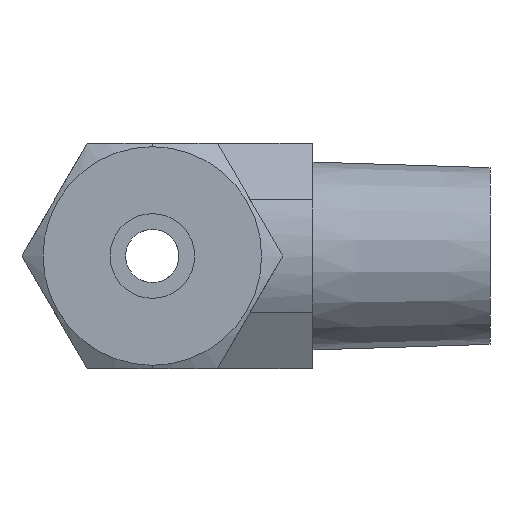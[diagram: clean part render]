
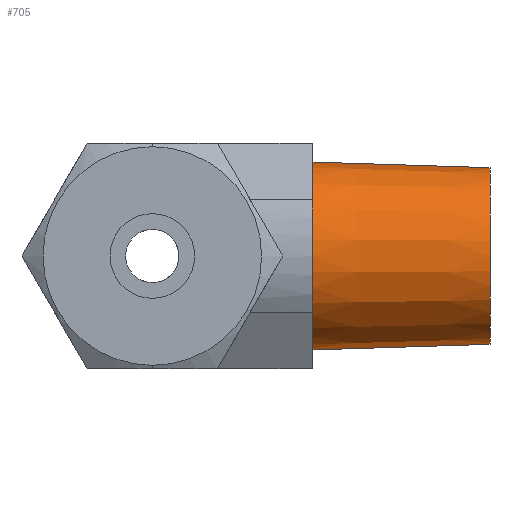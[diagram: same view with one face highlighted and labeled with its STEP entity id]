
A CAD part, left-side view. The second image highlights one B-rep face of the part: STEP entity #705.
In plain terms, the highlighted conical face has half-angle 1.8 degrees and reference radius 5.1 mm.
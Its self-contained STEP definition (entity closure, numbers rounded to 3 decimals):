
#699 = EDGE_CURVE ( 'NONE', #707, #712, #2178, .T. ) ;
#701 = ORIENTED_EDGE ( 'NONE', *, *, #699, .F. ) ;
#702 = EDGE_CURVE ( 'NONE', #706, #704, #2174, .T. ) ;
#703 = ORIENTED_EDGE ( 'NONE', *, *, #713, .T. ) ;
#704 = VERTEX_POINT ( 'NONE', #2170 ) ;
#705 = ADVANCED_FACE ( 'NONE', ( #2169 ), #2168, .T. ) ;
#706 = VERTEX_POINT ( 'NONE', #2167 ) ;
#707 = VERTEX_POINT ( 'NONE', #2162 ) ;
#708 = ORIENTED_EDGE ( 'NONE', *, *, #702, .T. ) ;
#709 = ORIENTED_EDGE ( 'NONE', *, *, #710, .F. ) ;
#710 = EDGE_CURVE ( 'NONE', #706, #707, #2161, .T. ) ;
#711 = EDGE_LOOP ( 'NONE', ( #709, #708, #703, #701 ) ) ;
#712 = VERTEX_POINT ( 'NONE', #2156 ) ;
#713 = EDGE_CURVE ( 'NONE', #704, #712, #2215, .T. ) ;
#2156 = CARTESIAN_POINT ( 'NONE',  ( 0., -9., -5.285 ) ) ;
#2157 = DIRECTION ( 'NONE',  ( 0., 0., -1. ) ) ;
#2158 = DIRECTION ( 'NONE',  ( 0., -1., 0. ) ) ;
#2159 = CARTESIAN_POINT ( 'NONE',  ( 0., -19., 0. ) ) ;
#2160 = AXIS2_PLACEMENT_3D ( 'NONE', #2159, #2158, #2157 ) ;
#2161 = CIRCLE ( 'NONE', #2160, 4.971 ) ;
#2162 = CARTESIAN_POINT ( 'NONE',  ( 0., -19., -4.971 ) ) ;
#2163 = DIRECTION ( 'NONE',  ( 0., 0., -1. ) ) ;
#2164 = DIRECTION ( 'NONE',  ( 0., 1., 0. ) ) ;
#2165 = CARTESIAN_POINT ( 'NONE',  ( 0., -14.9, 0. ) ) ;
#2166 = AXIS2_PLACEMENT_3D ( 'NONE', #2165, #2164, #2163 ) ;
#2167 = CARTESIAN_POINT ( 'NONE',  ( 0., -19., 4.971 ) ) ;
#2168 = CONICAL_SURFACE ( 'NONE', #2166, 5.1, 0.031 ) ;
#2169 = FACE_OUTER_BOUND ( 'NONE', #711, .T. ) ;
#2170 = CARTESIAN_POINT ( 'NONE',  ( 0., -9., 5.285 ) ) ;
#2171 = DIRECTION ( 'NONE',  ( 0., 1., 0.031 ) ) ;
#2172 = VECTOR ( 'NONE', #2171, 1000. ) ;
#2173 = CARTESIAN_POINT ( 'NONE',  ( 0., -14.9, 5.1 ) ) ;
#2174 = LINE ( 'NONE', #2173, #2172 ) ;
#2175 = DIRECTION ( 'NONE',  ( 0., 1., -0.031 ) ) ;
#2176 = VECTOR ( 'NONE', #2175, 1000. ) ;
#2177 = CARTESIAN_POINT ( 'NONE',  ( 0., -14.9, -5.1 ) ) ;
#2178 = LINE ( 'NONE', #2177, #2176 ) ;
#2211 = DIRECTION ( 'NONE',  ( 0., 0., 1. ) ) ;
#2212 = DIRECTION ( 'NONE',  ( 0., -1., 0. ) ) ;
#2213 = CARTESIAN_POINT ( 'NONE',  ( 0., -9., 0. ) ) ;
#2214 = AXIS2_PLACEMENT_3D ( 'NONE', #2213, #2212, #2211 ) ;
#2215 = CIRCLE ( 'NONE', #2214, 5.285 ) ;
